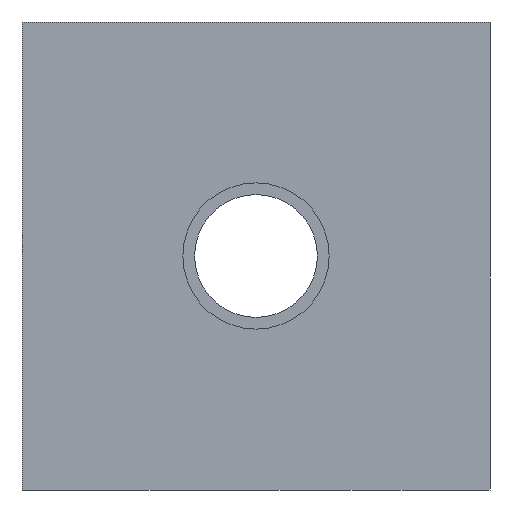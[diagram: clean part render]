
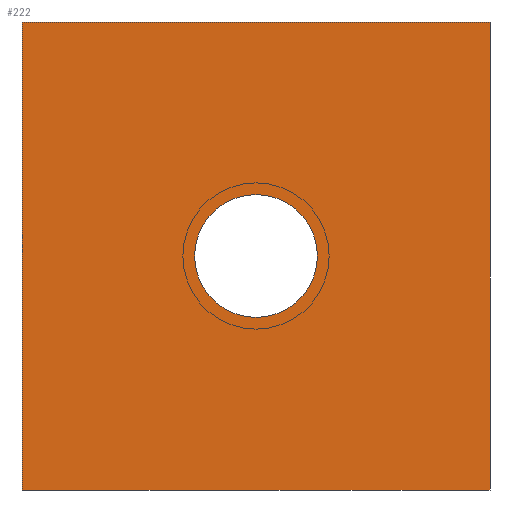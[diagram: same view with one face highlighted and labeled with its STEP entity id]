
A CAD part, front view. The second image highlights one B-rep face of the part: STEP entity #222.
In plain terms, the highlighted planar face has unit normal (0, -1, 0).
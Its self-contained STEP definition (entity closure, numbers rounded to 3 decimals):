
#1=DIRECTION('',(0.,0.,1.));
#2=VECTOR('',#1,16.);
#3=CARTESIAN_POINT('',(-8.,0.,-8.));
#4=LINE('',#3,#2);
#5=DIRECTION('',(1.,0.,0.));
#6=VECTOR('',#5,16.);
#7=CARTESIAN_POINT('',(-8.,0.,8.));
#8=LINE('',#7,#6);
#9=DIRECTION('',(0.,0.,-1.));
#10=VECTOR('',#9,16.);
#11=CARTESIAN_POINT('',(8.,0.,8.));
#12=LINE('',#11,#10);
#13=DIRECTION('',(-1.,0.,0.));
#14=VECTOR('',#13,16.);
#15=CARTESIAN_POINT('',(8.,0.,-8.));
#16=LINE('',#15,#14);
#17=CARTESIAN_POINT('',(0.,0.,0.));
#18=DIRECTION('',(0.,1.,0.));
#19=DIRECTION('',(1.,0.,0.));
#20=AXIS2_PLACEMENT_3D('',#17,#18,#19);
#22=CARTESIAN_POINT('',(0.,0.,0.));
#23=DIRECTION('',(0.,1.,0.));
#24=DIRECTION('',(-1.,0.,0.));
#25=AXIS2_PLACEMENT_3D('',#22,#23,#24);
#173=CARTESIAN_POINT('',(-8.,0.,-8.));
#174=CARTESIAN_POINT('',(-8.,0.,8.));
#175=VERTEX_POINT('',#173);
#176=VERTEX_POINT('',#174);
#177=CARTESIAN_POINT('',(8.,0.,8.));
#178=VERTEX_POINT('',#177);
#179=CARTESIAN_POINT('',(8.,0.,-8.));
#180=VERTEX_POINT('',#179);
#193=CARTESIAN_POINT('',(2.1,0.,0.));
#194=CARTESIAN_POINT('',(-2.1,0.,0.));
#195=VERTEX_POINT('',#193);
#196=VERTEX_POINT('',#194);
#201=CARTESIAN_POINT('',(0.,0.,0.));
#202=DIRECTION('',(0.,1.,0.));
#203=DIRECTION('',(1.,0.,0.));
#204=AXIS2_PLACEMENT_3D('',#201,#202,#203);
#205=PLANE('',#204);
#207=ORIENTED_EDGE('',*,*,#206,.T.);
#209=ORIENTED_EDGE('',*,*,#208,.T.);
#211=ORIENTED_EDGE('',*,*,#210,.T.);
#213=ORIENTED_EDGE('',*,*,#212,.T.);
#214=EDGE_LOOP('',(#207,#209,#211,#213));
#215=FACE_OUTER_BOUND('',#214,.F.);
#217=ORIENTED_EDGE('',*,*,#216,.F.);
#219=ORIENTED_EDGE('',*,*,#218,.F.);
#220=EDGE_LOOP('',(#217,#219));
#221=FACE_BOUND('',#220,.F.);
#222=ADVANCED_FACE('',(#215,#221),#205,.F.);
#21=CIRCLE('',#20,2.1);
#26=CIRCLE('',#25,2.1);
#206=EDGE_CURVE('',#175,#176,#4,.T.);
#208=EDGE_CURVE('',#176,#178,#8,.T.);
#210=EDGE_CURVE('',#178,#180,#12,.T.);
#212=EDGE_CURVE('',#180,#175,#16,.T.);
#216=EDGE_CURVE('',#195,#196,#21,.T.);
#218=EDGE_CURVE('',#196,#195,#26,.T.);
